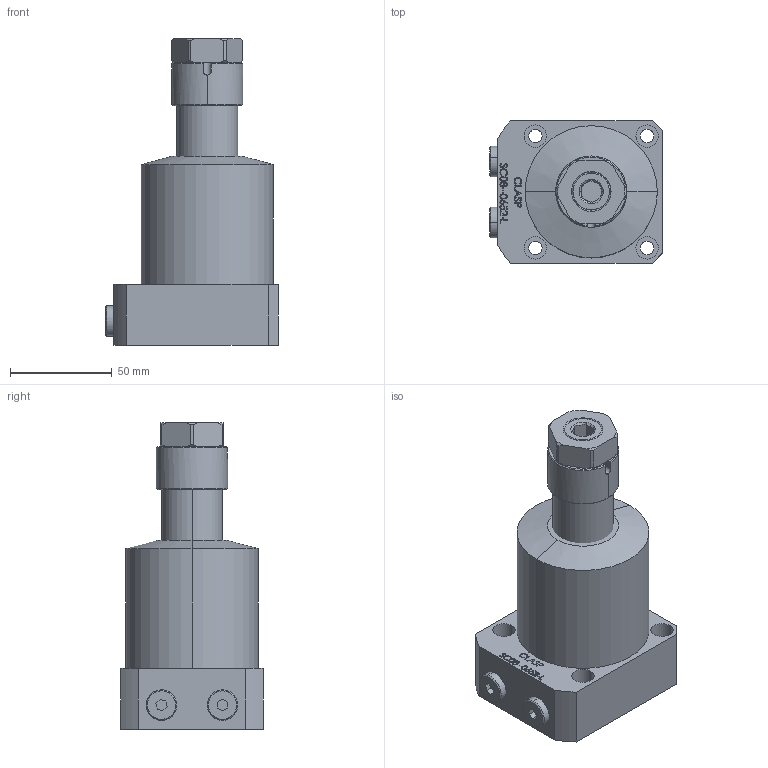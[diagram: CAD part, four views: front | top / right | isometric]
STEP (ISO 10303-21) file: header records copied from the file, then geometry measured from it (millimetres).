
FILE_DESCRIPTION (( 'STEP AP203' ), '1' );
FILE_NAME ('SC08-0652-L.STEP', '2022-07-08T17:19:47', ( '' ), ( '' ), 'SwSTEP 2.0', 'SolidWorks 2017', '' );
FILE_SCHEMA (( 'CONFIG_CONTROL_DESIGN' ));
Length unit declared in the file: millimetre
Products named in the file (6): SC-08-0652-L-05 plug; SC-08-0652-L-04 sleeve; SC-08-0652-L-03-nut; SC08-0652-L; SC-08-0652-L-01 BODY; SC-08-0652-L-02-Piston
Assembly tree (6 placements, depth 2):
  SC08-0652-L
    SC-08-0652-L-01 BODY
    SC-08-0652-L-02-Piston
    SC-08-0652-L-05 plug  x2
    SC-08-0652-L-04 sleeve
    SC-08-0652-L-03-nut
Bounding box: 85 x 70 x 151 mm (x, y, z)
Volume: 426685.5 mm3; surface area: 54973.1 mm2
Topology: 6 solids, 6 shells, 378 faces, 942 edges, 617 vertices
Faces by surface type: plane 159, bspline 112, cylinder 64, cone 41, sphere 2
Entity records: 17979 total; most frequent: CARTESIAN_POINT 9321, ORIENTED_EDGE 1816, DIRECTION 1323, EDGE_CURVE 908, VERTEX_POINT 596, LINE 471, VECTOR 471, AXIS2_PLACEMENT_3D 426
